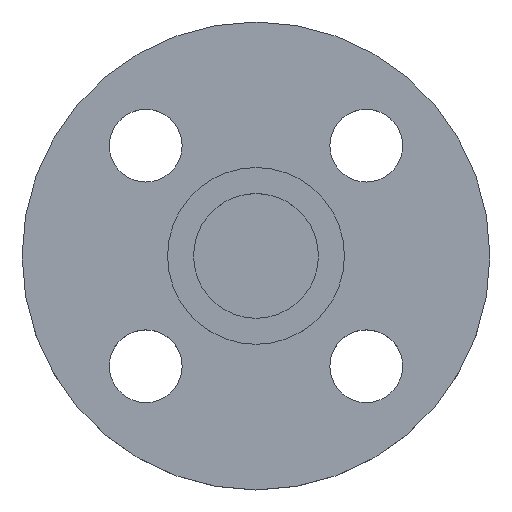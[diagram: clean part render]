
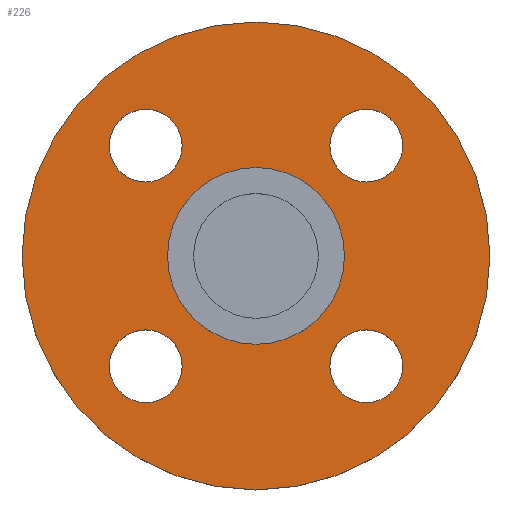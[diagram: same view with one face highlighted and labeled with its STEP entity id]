
A CAD part, top view. The second image highlights one B-rep face of the part: STEP entity #226.
In plain terms, the highlighted planar face has unit normal (0, 0, 1).
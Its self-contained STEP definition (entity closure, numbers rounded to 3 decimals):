
#9 = CIRCLE ( 'NONE', #100, 7. ) ;
#12 = CIRCLE ( 'NONE', #23, 7. ) ;
#18 = CIRCLE ( 'NONE', #19, 17. ) ;
#19 = AXIS2_PLACEMENT_3D ( 'NONE', #169, #185, #186 ) ;
#22 = CIRCLE ( 'NONE', #46, 7. ) ;
#23 = AXIS2_PLACEMENT_3D ( 'NONE', #435, #436, #437 ) ;
#27 = AXIS2_PLACEMENT_3D ( 'NONE', #552, #553, #554 ) ;
#31 = AXIS2_PLACEMENT_3D ( 'NONE', #540, #541, #542 ) ;
#44 = CIRCLE ( 'NONE', #54, 7. ) ;
#46 = AXIS2_PLACEMENT_3D ( 'NONE', #187, #189, #191 ) ;
#53 = AXIS2_PLACEMENT_3D ( 'NONE', #457, #458, #459 ) ;
#54 = AXIS2_PLACEMENT_3D ( 'NONE', #527, #528, #529 ) ;
#55 = EDGE_CURVE ( 'NONE', #375, #302, #12, .T. ) ;
#56 = CIRCLE ( 'NONE', #60, 7. ) ;
#60 = AXIS2_PLACEMENT_3D ( 'NONE', #159, #160, #161 ) ;
#62 = CIRCLE ( 'NONE', #70, 17. ) ;
#65 = CIRCLE ( 'NONE', #335, 7. ) ;
#66 = AXIS2_PLACEMENT_3D ( 'NONE', #79, #108, #115 ) ;
#67 = DIRECTION ( 'NONE',  ( 0., 0., -1. ) ) ;
#70 = AXIS2_PLACEMENT_3D ( 'NONE', #490, #491, #492 ) ;
#73 = EDGE_CURVE ( 'NONE', #251, #249, #177, .T. ) ;
#78 = DIRECTION ( 'NONE',  ( 1., 0., 0. ) ) ;
#79 = CARTESIAN_POINT ( 'NONE',  ( -21.213, -21.213, -4.5 ) ) ;
#88 = CIRCLE ( 'NONE', #27, 45. ) ;
#92 = AXIS2_PLACEMENT_3D ( 'NONE', #102, #67, #78 ) ;
#100 = AXIS2_PLACEMENT_3D ( 'NONE', #200, #201, #202 ) ;
#102 = CARTESIAN_POINT ( 'NONE',  ( 21.213, 21.213, -4.5 ) ) ;
#108 = DIRECTION ( 'NONE',  ( 0., 0., -1. ) ) ;
#110 = CIRCLE ( 'NONE', #66, 7. ) ;
#115 = DIRECTION ( 'NONE',  ( 1., 0., 0. ) ) ;
#126 = CARTESIAN_POINT ( 'NONE',  ( -17., 0., -4.5 ) ) ;
#144 = EDGE_CURVE ( 'NONE', #347, #390, #62, .T. ) ;
#153 = CARTESIAN_POINT ( 'NONE',  ( 14.213, 21.213, -4.5 ) ) ;
#156 = CARTESIAN_POINT ( 'NONE',  ( 28.213, -21.213, -4.5 ) ) ;
#159 = CARTESIAN_POINT ( 'NONE',  ( -21.213, -21.213, -4.5 ) ) ;
#160 = DIRECTION ( 'NONE',  ( 0., 0., -1. ) ) ;
#161 = DIRECTION ( 'NONE',  ( 1., 0., 0. ) ) ;
#164 = CARTESIAN_POINT ( 'NONE',  ( -28.213, 21.213, -4.5 ) ) ;
#165 = CARTESIAN_POINT ( 'NONE',  ( 28.213, 21.213, -4.5 ) ) ;
#167 = CARTESIAN_POINT ( 'NONE',  ( -28.213, -21.213, -4.5 ) ) ;
#168 = CARTESIAN_POINT ( 'NONE',  ( 17., 0., -4.5 ) ) ;
#169 = CARTESIAN_POINT ( 'NONE',  ( 0., 0., -4.5 ) ) ;
#177 = CIRCLE ( 'NONE', #53, 45. ) ;
#185 = DIRECTION ( 'NONE',  ( 0., 0., -1. ) ) ;
#186 = DIRECTION ( 'NONE',  ( -1., 0., 0. ) ) ;
#187 = CARTESIAN_POINT ( 'NONE',  ( -21.213, 21.213, -4.5 ) ) ;
#189 = DIRECTION ( 'NONE',  ( 0., 0., -1. ) ) ;
#191 = DIRECTION ( 'NONE',  ( 1., 0., 0. ) ) ;
#200 = CARTESIAN_POINT ( 'NONE',  ( 21.213, 21.213, -4.5 ) ) ;
#201 = DIRECTION ( 'NONE',  ( 0., 0., -1. ) ) ;
#202 = DIRECTION ( 'NONE',  ( 1., 0., 0. ) ) ;
#218 = EDGE_CURVE ( 'NONE', #382, #291, #44, .T. ) ;
#226 = ADVANCED_FACE ( 'NONE', ( #533, #534, #535, #536, #537, #538 ), #539, .T. ) ;
#237 = EDGE_CURVE ( 'NONE', #249, #251, #88, .T. ) ;
#244 = EDGE_CURVE ( 'NONE', #302, #375, #65, .T. ) ;
#249 = VERTEX_POINT ( 'NONE', #571 ) ;
#250 = VERTEX_POINT ( 'NONE', #572 ) ;
#251 = VERTEX_POINT ( 'NONE', #573 ) ;
#253 = EDGE_LOOP ( 'NONE', ( #324, #325 ) ) ;
#254 = EDGE_LOOP ( 'NONE', ( #326, #328 ) ) ;
#262 = ORIENTED_EDGE ( 'NONE', *, *, #73, .F. ) ;
#264 = ORIENTED_EDGE ( 'NONE', *, *, #237, .F. ) ;
#271 = EDGE_LOOP ( 'NONE', ( #320, #321 ) ) ;
#291 = VERTEX_POINT ( 'NONE', #590 ) ;
#302 = VERTEX_POINT ( 'NONE', #596 ) ;
#320 = ORIENTED_EDGE ( 'NONE', *, *, #55, .T. ) ;
#321 = ORIENTED_EDGE ( 'NONE', *, *, #244, .T. ) ;
#322 = ORIENTED_EDGE ( 'NONE', *, *, #341, .T. ) ;
#323 = ORIENTED_EDGE ( 'NONE', *, *, #377, .T. ) ;
#324 = ORIENTED_EDGE ( 'NONE', *, *, #405, .T. ) ;
#325 = ORIENTED_EDGE ( 'NONE', *, *, #218, .T. ) ;
#326 = ORIENTED_EDGE ( 'NONE', *, *, #333, .T. ) ;
#328 = ORIENTED_EDGE ( 'NONE', *, *, #522, .T. ) ;
#331 = ORIENTED_EDGE ( 'NONE', *, *, #144, .T. ) ;
#332 = ORIENTED_EDGE ( 'NONE', *, *, #399, .T. ) ;
#333 = EDGE_CURVE ( 'NONE', #383, #371, #518, .T. ) ;
#335 = AXIS2_PLACEMENT_3D ( 'NONE', #566, #568, #569 ) ;
#341 = EDGE_CURVE ( 'NONE', #250, #388, #110, .T. ) ;
#347 = VERTEX_POINT ( 'NONE', #126 ) ;
#371 = VERTEX_POINT ( 'NONE', #153 ) ;
#372 = EDGE_LOOP ( 'NONE', ( #264, #262 ) ) ;
#375 = VERTEX_POINT ( 'NONE', #156 ) ;
#377 = EDGE_CURVE ( 'NONE', #388, #250, #56, .T. ) ;
#382 = VERTEX_POINT ( 'NONE', #164 ) ;
#383 = VERTEX_POINT ( 'NONE', #165 ) ;
#388 = VERTEX_POINT ( 'NONE', #167 ) ;
#390 = VERTEX_POINT ( 'NONE', #168 ) ;
#391 = EDGE_LOOP ( 'NONE', ( #322, #323 ) ) ;
#392 = EDGE_LOOP ( 'NONE', ( #331, #332 ) ) ;
#399 = EDGE_CURVE ( 'NONE', #390, #347, #18, .T. ) ;
#405 = EDGE_CURVE ( 'NONE', #291, #382, #22, .T. ) ;
#435 = CARTESIAN_POINT ( 'NONE',  ( 21.213, -21.213, -4.5 ) ) ;
#436 = DIRECTION ( 'NONE',  ( 0., 0., -1. ) ) ;
#437 = DIRECTION ( 'NONE',  ( 1., 0., 0. ) ) ;
#457 = CARTESIAN_POINT ( 'NONE',  ( 0., 0., -4.5 ) ) ;
#458 = DIRECTION ( 'NONE',  ( 0., 0., -1. ) ) ;
#459 = DIRECTION ( 'NONE',  ( -1., 0., 0. ) ) ;
#490 = CARTESIAN_POINT ( 'NONE',  ( 0., 0., -4.5 ) ) ;
#491 = DIRECTION ( 'NONE',  ( 0., 0., -1. ) ) ;
#492 = DIRECTION ( 'NONE',  ( -1., 0., 0. ) ) ;
#518 = CIRCLE ( 'NONE', #92, 7. ) ;
#522 = EDGE_CURVE ( 'NONE', #371, #383, #9, .T. ) ;
#527 = CARTESIAN_POINT ( 'NONE',  ( -21.213, 21.213, -4.5 ) ) ;
#528 = DIRECTION ( 'NONE',  ( 0., 0., -1. ) ) ;
#529 = DIRECTION ( 'NONE',  ( 1., 0., 0. ) ) ;
#533 = FACE_BOUND ( 'NONE', #271, .T. ) ;
#534 = FACE_BOUND ( 'NONE', #391, .T. ) ;
#535 = FACE_BOUND ( 'NONE', #253, .T. ) ;
#536 = FACE_BOUND ( 'NONE', #254, .T. ) ;
#537 = FACE_BOUND ( 'NONE', #392, .T. ) ;
#538 = FACE_OUTER_BOUND ( 'NONE', #372, .T. ) ;
#539 = PLANE ( 'NONE',  #31 ) ;
#540 = CARTESIAN_POINT ( 'NONE',  ( 17., 0., -4.5 ) ) ;
#541 = DIRECTION ( 'NONE',  ( 0., 0., 1. ) ) ;
#542 = DIRECTION ( 'NONE',  ( 1., 0., 0. ) ) ;
#552 = CARTESIAN_POINT ( 'NONE',  ( 0., 0., -4.5 ) ) ;
#553 = DIRECTION ( 'NONE',  ( 0., 0., -1. ) ) ;
#554 = DIRECTION ( 'NONE',  ( -1., 0., 0. ) ) ;
#566 = CARTESIAN_POINT ( 'NONE',  ( 21.213, -21.213, -4.5 ) ) ;
#568 = DIRECTION ( 'NONE',  ( 0., 0., -1. ) ) ;
#569 = DIRECTION ( 'NONE',  ( 1., 0., 0. ) ) ;
#571 = CARTESIAN_POINT ( 'NONE',  ( 45., 0., -4.5 ) ) ;
#572 = CARTESIAN_POINT ( 'NONE',  ( -14.213, -21.213, -4.5 ) ) ;
#573 = CARTESIAN_POINT ( 'NONE',  ( -45., 0., -4.5 ) ) ;
#590 = CARTESIAN_POINT ( 'NONE',  ( -14.213, 21.213, -4.5 ) ) ;
#596 = CARTESIAN_POINT ( 'NONE',  ( 14.213, -21.213, -4.5 ) ) ;
